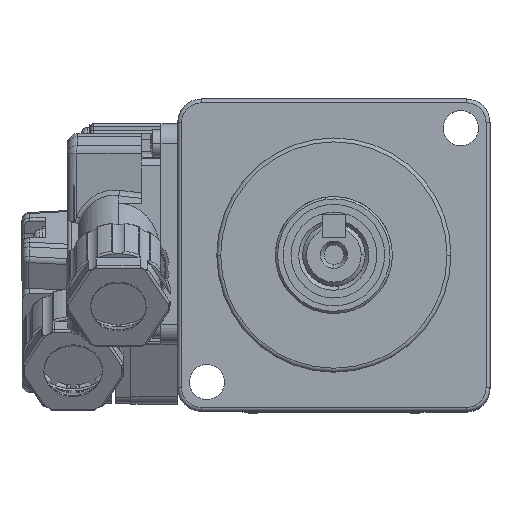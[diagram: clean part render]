
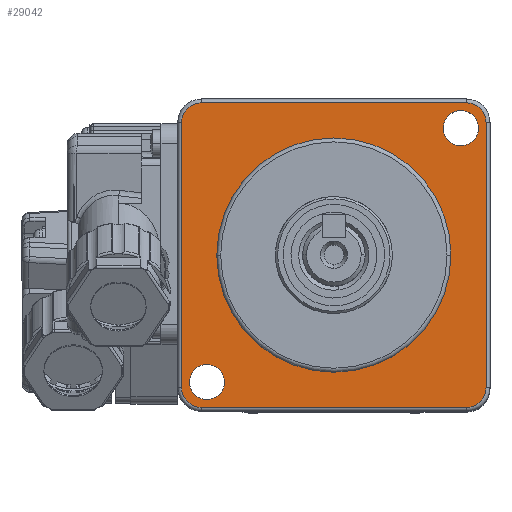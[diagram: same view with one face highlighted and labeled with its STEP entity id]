
A CAD part, top view. The second image highlights one B-rep face of the part: STEP entity #29042.
In plain terms, the highlighted planar face has unit normal (0, 0, 1).
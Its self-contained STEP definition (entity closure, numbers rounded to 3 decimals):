
#83 = VECTOR ( 'NONE', #15151, 1000. ) ;
#166 = DIRECTION ( 'NONE',  ( -1., 0., 0. ) ) ;
#299 = ORIENTED_EDGE ( 'NONE', *, *, #22985, .F. ) ;
#333 = ORIENTED_EDGE ( 'NONE', *, *, #31893, .T. ) ;
#533 = CARTESIAN_POINT ( 'NONE',  ( -16.263, -16.263, 40. ) ) ;
#992 = CIRCLE ( 'NONE', #15170, 2.5 ) ;
#1326 = CARTESIAN_POINT ( 'NONE',  ( -17., -19.5, 40. ) ) ;
#1537 = VERTEX_POINT ( 'NONE', #12299 ) ;
#2320 = AXIS2_PLACEMENT_3D ( 'NONE', #39332, #11988, #20076 ) ;
#2641 = CARTESIAN_POINT ( 'NONE',  ( -15., 0., 40. ) ) ;
#3058 = FACE_BOUND ( 'NONE', #29367, .T. ) ;
#3090 = DIRECTION ( 'NONE',  ( -1., 0., 0. ) ) ;
#3158 = ORIENTED_EDGE ( 'NONE', *, *, #31843, .T. ) ;
#3256 = AXIS2_PLACEMENT_3D ( 'NONE', #21228, #31376, #39113 ) ;
#3404 = CARTESIAN_POINT ( 'NONE',  ( -19.5, -17., 40. ) ) ;
#4777 = CARTESIAN_POINT ( 'NONE',  ( 16.263, 16.263, 40. ) ) ;
#4782 = DIRECTION ( 'NONE',  ( -1., 0., 0. ) ) ;
#5260 = VERTEX_POINT ( 'NONE', #6572 ) ;
#5487 = CARTESIAN_POINT ( 'NONE',  ( 19.5, -17., 40. ) ) ;
#6572 = CARTESIAN_POINT ( 'NONE',  ( 14.013, 16.263, 40. ) ) ;
#7382 = DIRECTION ( 'NONE',  ( -1., 0., 0. ) ) ;
#7497 = CARTESIAN_POINT ( 'NONE',  ( 17., -19.5, 40. ) ) ;
#7661 = CARTESIAN_POINT ( 'NONE',  ( -17., 17., 40. ) ) ;
#8137 = VERTEX_POINT ( 'NONE', #33486 ) ;
#8382 = AXIS2_PLACEMENT_3D ( 'NONE', #41390, #18431, #22838 ) ;
#8972 = EDGE_CURVE ( 'NONE', #38783, #47774, #26672, .T. ) ;
#9394 = CARTESIAN_POINT ( 'NONE',  ( -18.513, -16.263, 40. ) ) ;
#10713 = DIRECTION ( 'NONE',  ( 0., 0., -1. ) ) ;
#11158 = CARTESIAN_POINT ( 'NONE',  ( -17., 19.5, 40. ) ) ;
#11309 = EDGE_LOOP ( 'NONE', ( #24356, #45119, #32978, #333, #23421, #14933, #3158, #34390 ) ) ;
#11925 = AXIS2_PLACEMENT_3D ( 'NONE', #49348, #10713, #3090 ) ;
#11988 = DIRECTION ( 'NONE',  ( 0., 0., 1. ) ) ;
#12079 = DIRECTION ( 'NONE',  ( 0., 0., 1. ) ) ;
#12299 = CARTESIAN_POINT ( 'NONE',  ( 15., 0., 40. ) ) ;
#12839 = DIRECTION ( 'NONE',  ( -1., 0., 0. ) ) ;
#13289 = CARTESIAN_POINT ( 'NONE',  ( -19.5, 0., 40. ) ) ;
#13532 = EDGE_CURVE ( 'NONE', #47774, #38783, #40185, .T. ) ;
#13720 = ORIENTED_EDGE ( 'NONE', *, *, #13532, .F. ) ;
#13841 = DIRECTION ( 'NONE',  ( 0., 0., 1. ) ) ;
#14933 = ORIENTED_EDGE ( 'NONE', *, *, #29986, .T. ) ;
#15151 = DIRECTION ( 'NONE',  ( 1., 0., 0. ) ) ;
#15170 = AXIS2_PLACEMENT_3D ( 'NONE', #35999, #16374, #12839 ) ;
#15483 = EDGE_CURVE ( 'NONE', #23631, #40186, #26089, .T. ) ;
#15753 = DIRECTION ( 'NONE',  ( -1., 0., 0. ) ) ;
#16374 = DIRECTION ( 'NONE',  ( 0., 0., 1. ) ) ;
#17172 = DIRECTION ( 'NONE',  ( 0., -1., 0. ) ) ;
#18238 = VECTOR ( 'NONE', #17172, 1000. ) ;
#18408 = LINE ( 'NONE', #28857, #34784 ) ;
#18431 = DIRECTION ( 'NONE',  ( 0., 0., 1. ) ) ;
#18821 = CARTESIAN_POINT ( 'NONE',  ( 0., 19.5, 40. ) ) ;
#18865 = AXIS2_PLACEMENT_3D ( 'NONE', #533, #27591, #4782 ) ;
#18974 = CIRCLE ( 'NONE', #22379, 2.5 ) ;
#19298 = ORIENTED_EDGE ( 'NONE', *, *, #8972, .F. ) ;
#20076 = DIRECTION ( 'NONE',  ( -1., 0., 0. ) ) ;
#20138 = CARTESIAN_POINT ( 'NONE',  ( -14.013, -16.263, 40. ) ) ;
#20268 = ORIENTED_EDGE ( 'NONE', *, *, #21535, .F. ) ;
#20371 = EDGE_LOOP ( 'NONE', ( #299, #20268 ) ) ;
#20616 = FACE_BOUND ( 'NONE', #20371, .T. ) ;
#21016 = DIRECTION ( 'NONE',  ( 0., 0., 1. ) ) ;
#21228 = CARTESIAN_POINT ( 'NONE',  ( 16.263, 16.263, 40. ) ) ;
#21456 = CARTESIAN_POINT ( 'NONE',  ( 18.513, 16.263, 40. ) ) ;
#21535 = EDGE_CURVE ( 'NONE', #47033, #5260, #27958, .T. ) ;
#22379 = AXIS2_PLACEMENT_3D ( 'NONE', #48899, #13841, #33607 ) ;
#22478 = EDGE_CURVE ( 'NONE', #26107, #8137, #32645, .T. ) ;
#22838 = DIRECTION ( 'NONE',  ( -1., 0., 0. ) ) ;
#22985 = EDGE_CURVE ( 'NONE', #5260, #47033, #36825, .T. ) ;
#23421 = ORIENTED_EDGE ( 'NONE', *, *, #44581, .T. ) ;
#23631 = VERTEX_POINT ( 'NONE', #38514 ) ;
#24356 = ORIENTED_EDGE ( 'NONE', *, *, #37856, .T. ) ;
#25984 = CIRCLE ( 'NONE', #49199, 15. ) ;
#26089 = LINE ( 'NONE', #13289, #18238 ) ;
#26107 = VERTEX_POINT ( 'NONE', #42204 ) ;
#26672 = CIRCLE ( 'NONE', #40019, 2.25 ) ;
#27591 = DIRECTION ( 'NONE',  ( 0., 0., 1. ) ) ;
#27841 = FACE_BOUND ( 'NONE', #32113, .T. ) ;
#27958 = CIRCLE ( 'NONE', #38861, 2.25 ) ;
#28857 = CARTESIAN_POINT ( 'NONE',  ( 19.5, 0., 40. ) ) ;
#29042 = ADVANCED_FACE ( 'NONE', ( #29125, #20616, #27841, #3058 ), #41101, .F. ) ;
#29125 = FACE_OUTER_BOUND ( 'NONE', #11309, .T. ) ;
#29132 = LINE ( 'NONE', #30227, #83 ) ;
#29196 = DIRECTION ( 'NONE',  ( 0., 1., 0. ) ) ;
#29367 = EDGE_LOOP ( 'NONE', ( #30903, #47466 ) ) ;
#29734 = EDGE_CURVE ( 'NONE', #35909, #1537, #39179, .T. ) ;
#29986 = EDGE_CURVE ( 'NONE', #33982, #33850, #992, .T. ) ;
#30227 = CARTESIAN_POINT ( 'NONE',  ( 0., -19.5, 40. ) ) ;
#30903 = ORIENTED_EDGE ( 'NONE', *, *, #29734, .F. ) ;
#31376 = DIRECTION ( 'NONE',  ( 0., 0., 1. ) ) ;
#31704 = DIRECTION ( 'NONE',  ( -1., 0., 0. ) ) ;
#31843 = EDGE_CURVE ( 'NONE', #33850, #26107, #18408, .T. ) ;
#31893 = EDGE_CURVE ( 'NONE', #40186, #46982, #18974, .T. ) ;
#32113 = EDGE_LOOP ( 'NONE', ( #19298, #13720 ) ) ;
#32645 = CIRCLE ( 'NONE', #2320, 2.5 ) ;
#32978 = ORIENTED_EDGE ( 'NONE', *, *, #15483, .T. ) ;
#33374 = VECTOR ( 'NONE', #7382, 1000. ) ;
#33486 = CARTESIAN_POINT ( 'NONE',  ( 17., 19.5, 40. ) ) ;
#33607 = DIRECTION ( 'NONE',  ( -1., 0., 0. ) ) ;
#33850 = VERTEX_POINT ( 'NONE', #5487 ) ;
#33982 = VERTEX_POINT ( 'NONE', #7497 ) ;
#34390 = ORIENTED_EDGE ( 'NONE', *, *, #22478, .T. ) ;
#34603 = AXIS2_PLACEMENT_3D ( 'NONE', #7661, #46800, #166 ) ;
#34784 = VECTOR ( 'NONE', #29196, 1000. ) ;
#35909 = VERTEX_POINT ( 'NONE', #2641 ) ;
#35999 = CARTESIAN_POINT ( 'NONE',  ( 17., -17., 40. ) ) ;
#36085 = CARTESIAN_POINT ( 'NONE',  ( -16.263, -16.263, 40. ) ) ;
#36583 = DIRECTION ( 'NONE',  ( -1., 0., 0. ) ) ;
#36825 = CIRCLE ( 'NONE', #3256, 2.25 ) ;
#37856 = EDGE_CURVE ( 'NONE', #8137, #45640, #40571, .T. ) ;
#38514 = CARTESIAN_POINT ( 'NONE',  ( -19.5, 17., 40. ) ) ;
#38783 = VERTEX_POINT ( 'NONE', #9394 ) ;
#38861 = AXIS2_PLACEMENT_3D ( 'NONE', #4777, #46486, #15753 ) ;
#39113 = DIRECTION ( 'NONE',  ( -1., 0., 0. ) ) ;
#39139 = EDGE_CURVE ( 'NONE', #45640, #23631, #46643, .T. ) ;
#39179 = CIRCLE ( 'NONE', #8382, 15. ) ;
#39332 = CARTESIAN_POINT ( 'NONE',  ( 17., 17., 40. ) ) ;
#40019 = AXIS2_PLACEMENT_3D ( 'NONE', #36085, #21016, #36583 ) ;
#40185 = CIRCLE ( 'NONE', #18865, 2.25 ) ;
#40186 = VERTEX_POINT ( 'NONE', #3404 ) ;
#40571 = LINE ( 'NONE', #18821, #33374 ) ;
#41101 = PLANE ( 'NONE',  #11925 ) ;
#41390 = CARTESIAN_POINT ( 'NONE',  ( 0., 0., 40. ) ) ;
#41559 = EDGE_CURVE ( 'NONE', #1537, #35909, #25984, .T. ) ;
#42204 = CARTESIAN_POINT ( 'NONE',  ( 19.5, 17., 40. ) ) ;
#43647 = CARTESIAN_POINT ( 'NONE',  ( 0., 0., 40. ) ) ;
#44581 = EDGE_CURVE ( 'NONE', #46982, #33982, #29132, .T. ) ;
#45119 = ORIENTED_EDGE ( 'NONE', *, *, #39139, .T. ) ;
#45640 = VERTEX_POINT ( 'NONE', #11158 ) ;
#46486 = DIRECTION ( 'NONE',  ( 0., 0., 1. ) ) ;
#46643 = CIRCLE ( 'NONE', #34603, 2.5 ) ;
#46800 = DIRECTION ( 'NONE',  ( 0., 0., 1. ) ) ;
#46982 = VERTEX_POINT ( 'NONE', #1326 ) ;
#47033 = VERTEX_POINT ( 'NONE', #21456 ) ;
#47466 = ORIENTED_EDGE ( 'NONE', *, *, #41559, .F. ) ;
#47774 = VERTEX_POINT ( 'NONE', #20138 ) ;
#48899 = CARTESIAN_POINT ( 'NONE',  ( -17., -17., 40. ) ) ;
#49199 = AXIS2_PLACEMENT_3D ( 'NONE', #43647, #12079, #31704 ) ;
#49348 = CARTESIAN_POINT ( 'NONE',  ( 0., 0., 40. ) ) ;
